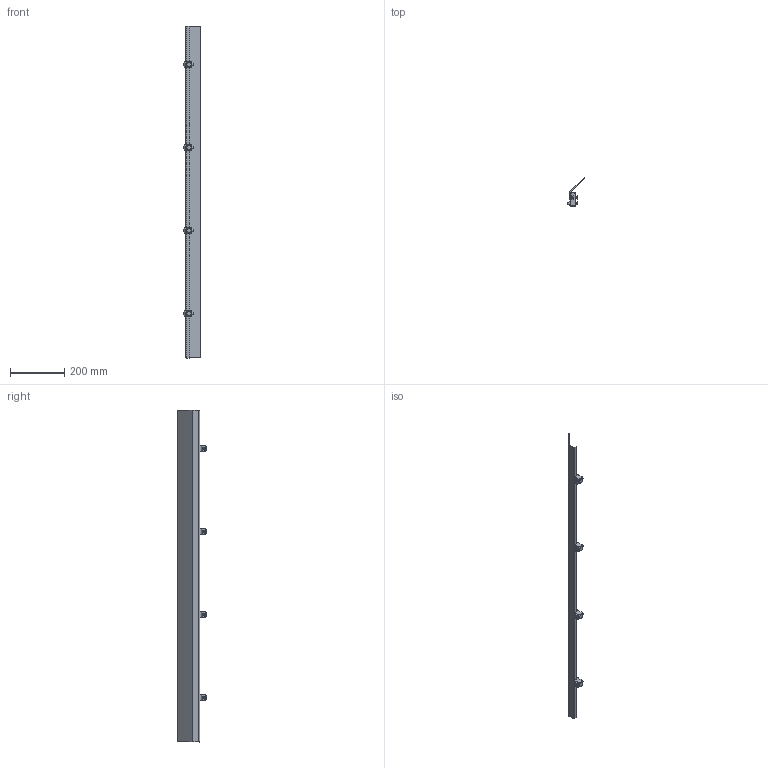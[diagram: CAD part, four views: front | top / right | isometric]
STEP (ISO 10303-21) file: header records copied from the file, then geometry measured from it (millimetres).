
FILE_DESCRIPTION (( 'STEP AP203' ), '1' );
FILE_NAME ('280804M.STEP', '2021-09-28T12:37:14', ( '' ), ( '' ), 'SwSTEP 2.0', 'SolidWorks 2019', '' );
FILE_SCHEMA (( 'CONFIG_CONTROL_DESIGN' ));
Length unit declared in the file: inch
Products named in the file (11): 9206XXM_920618M; Assem6^Assem5; 207127-LLLLL_207127-04800; 9206XXM_920630M; 639971M; 280804M; 807-2005; 207128
Assembly tree (25 placements, depth 3):
  280804M
    207127-LLLLL_207127-04800
    Assem6^Assem5
      207128
      639971M
      807-2005
      9206XXM_920630M
      9206XXM_920618M
    Assem6^Assem5
      207128
      639971M
      807-2005
      9206XXM_920630M
      9206XXM_920618M
    Assem6^Assem5
      207128
      639971M
      807-2005
      9206XXM_920630M
      9206XXM_920618M
    Assem6^Assem5
      207128
      639971M
      807-2005
      9206XXM_920630M
      9206XXM_920618M
Bounding box: 62.88 x 105.14 x 1219.2 mm (x, y, z)
Volume: 335334.8 mm3; surface area: 313613.1 mm2
Topology: 21 solids, 21 shells, 534 faces, 1208 edges, 752 vertices
Faces by surface type: plane 270, cylinder 136, cone 120, bspline 8
Entity records: 6170 total; most frequent: CARTESIAN_POINT 1159, DIRECTION 763, ORIENTED_EDGE 670, EDGE_CURVE 335, AXIS2_PLACEMENT_3D 282, VERTEX_POINT 206, LINE 199, VECTOR 199
